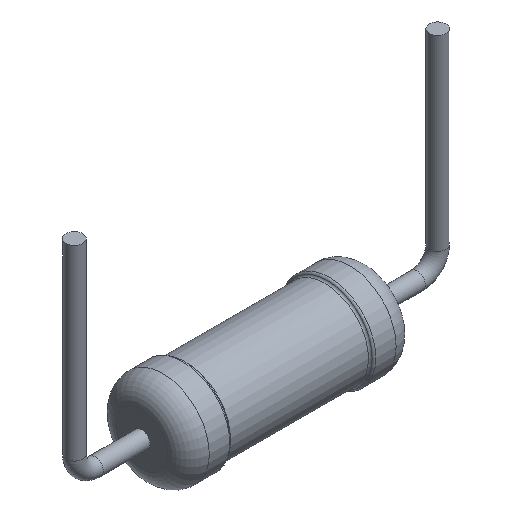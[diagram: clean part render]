
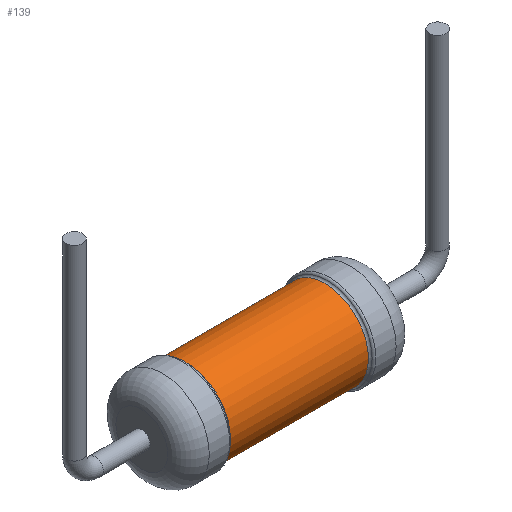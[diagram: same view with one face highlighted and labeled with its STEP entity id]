
A CAD part, isometric view. The second image highlights one B-rep face of the part: STEP entity #139.
In plain terms, the highlighted cylindrical face has radius 2.092 mm (diameter 4.184 mm), a full revolution.
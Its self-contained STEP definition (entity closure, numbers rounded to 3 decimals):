
#139=ADVANCED_FACE('',(#308,#310),#312,.T.);
#308=FACE_OUTER_BOUND('',#309,.T.);
#309=EDGE_LOOP('',(#413));
#310=FACE_OUTER_BOUND('',#311,.T.);
#311=EDGE_LOOP('',(#414));
#312=CYLINDRICAL_SURFACE('',#313,2.092);
#313=AXIS2_PLACEMENT_3D('',#314,#315,#316);
#314=CARTESIAN_POINT('',(3.324,0.,0.));
#315=DIRECTION('',(-1.,0.,0.));
#316=DIRECTION('',(0.,0.,1.));
#413=ORIENTED_EDGE('',*,*,#440,.T.);
#414=ORIENTED_EDGE('',*,*,#441,.F.);
#440=EDGE_CURVE('',#466,#466,#467,.T.);
#441=EDGE_CURVE('',#468,#468,#469,.T.);
#466=VERTEX_POINT('',#526);
#467=CIRCLE('',#527,2.092);
#468=VERTEX_POINT('',#531);
#469=CIRCLE('',#532,2.092);
#526=CARTESIAN_POINT('',(3.324,0.,2.092));
#527=AXIS2_PLACEMENT_3D('',#528,#529,#530);
#528=CARTESIAN_POINT('',(3.324,0.,0.));
#529=DIRECTION('',(-1.,0.,0.));
#530=DIRECTION('',(0.,0.,1.));
#531=CARTESIAN_POINT('',(-3.324,0.,2.092));
#532=AXIS2_PLACEMENT_3D('',#533,#534,#535);
#533=CARTESIAN_POINT('',(-3.324,0.,0.));
#534=DIRECTION('',(-1.,0.,0.));
#535=DIRECTION('',(0.,0.,1.));
